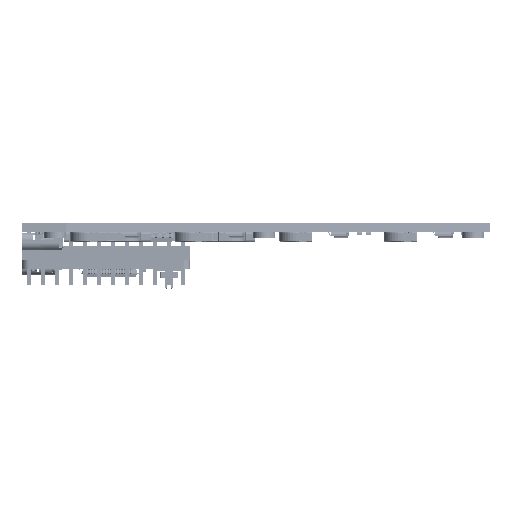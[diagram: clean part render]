
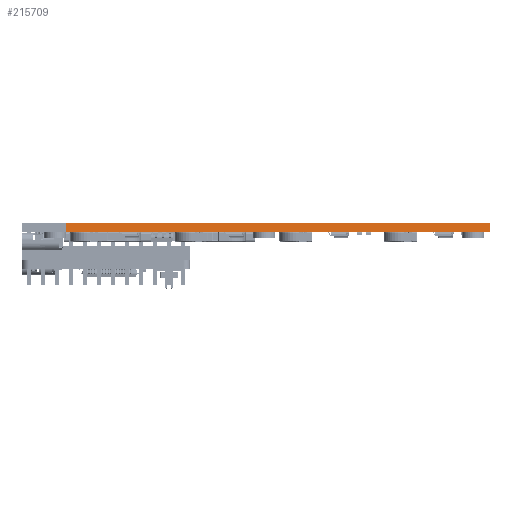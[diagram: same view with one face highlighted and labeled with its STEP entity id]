
A CAD part, left-side view. The second image highlights one B-rep face of the part: STEP entity #215709.
In plain terms, the highlighted planar face has unit normal (-0.97, -0.242, 0).
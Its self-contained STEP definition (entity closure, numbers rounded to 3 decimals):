
#215653 = VERTEX_POINT('',#215654);
#215654 = CARTESIAN_POINT('',(0.,0.,1.6));
#215660 = EDGE_CURVE('',#215661,#215653,#215663,.T.);
#215661 = VERTEX_POINT('',#215662);
#215662 = CARTESIAN_POINT('',(0.,-0.,0.));
#215663 = LINE('',#215664,#215665);
#215664 = CARTESIAN_POINT('',(0.,-0.,0.));
#215665 = VECTOR('',#215666,1.);
#215666 = DIRECTION('',(0.,0.,1.));
#215709 = ADVANCED_FACE('',(#215710),#215735,.T.);
#215710 = FACE_BOUND('',#215711,.T.);
#215711 = EDGE_LOOP('',(#215712,#215713,#215721,#215729));
#215712 = ORIENTED_EDGE('',*,*,#215660,.T.);
#215713 = ORIENTED_EDGE('',*,*,#215714,.T.);
#215714 = EDGE_CURVE('',#215653,#215715,#215717,.T.);
#215715 = VERTEX_POINT('',#215716);
#215716 = CARTESIAN_POINT('',(-19.25,77.,1.6));
#215717 = LINE('',#215718,#215719);
#215718 = CARTESIAN_POINT('',(0.,0.,1.6));
#215719 = VECTOR('',#215720,1.);
#215720 = DIRECTION('',(-0.243,0.97,0.));
#215721 = ORIENTED_EDGE('',*,*,#215722,.F.);
#215722 = EDGE_CURVE('',#215723,#215715,#215725,.T.);
#215723 = VERTEX_POINT('',#215724);
#215724 = CARTESIAN_POINT('',(-19.25,77.,0.));
#215725 = LINE('',#215726,#215727);
#215726 = CARTESIAN_POINT('',(-19.25,77.,0.));
#215727 = VECTOR('',#215728,1.);
#215728 = DIRECTION('',(0.,0.,1.));
#215729 = ORIENTED_EDGE('',*,*,#215730,.F.);
#215730 = EDGE_CURVE('',#215661,#215723,#215731,.T.);
#215731 = LINE('',#215732,#215733);
#215732 = CARTESIAN_POINT('',(0.,-0.,0.));
#215733 = VECTOR('',#215734,1.);
#215734 = DIRECTION('',(-0.243,0.97,0.));
#215735 = PLANE('',#215736);
#215736 = AXIS2_PLACEMENT_3D('',#215737,#215738,#215739);
#215737 = CARTESIAN_POINT('',(0.,0.,0.));
#215738 = DIRECTION('',(-0.97,-0.243,0.));
#215739 = DIRECTION('',(-0.243,0.97,0.));
